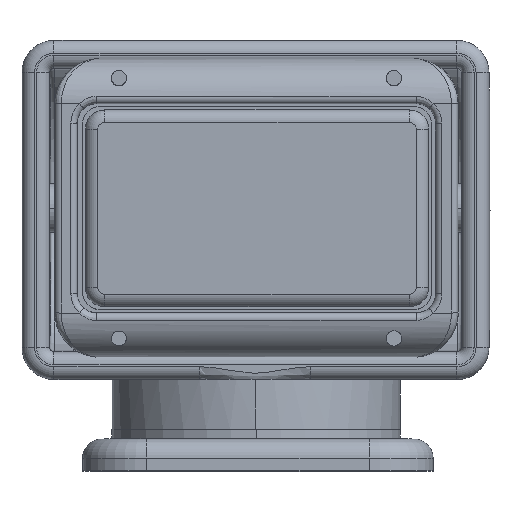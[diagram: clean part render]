
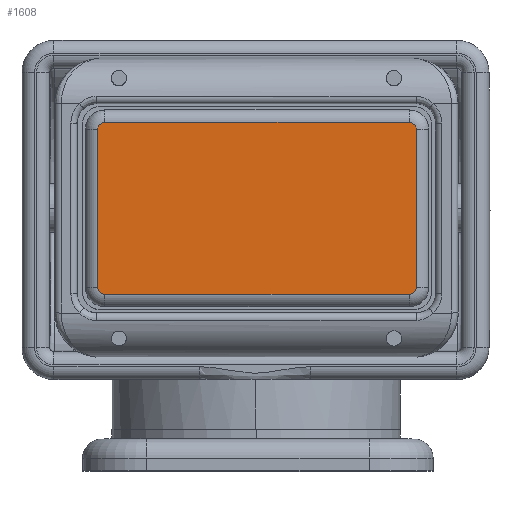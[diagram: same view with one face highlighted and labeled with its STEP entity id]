
A CAD part, top view. The second image highlights one B-rep face of the part: STEP entity #1608.
In plain terms, the highlighted planar face has unit normal (-0.007, -0.015, 1) as drawn and (0, 1, 0) by its records, which use the part's own axes.
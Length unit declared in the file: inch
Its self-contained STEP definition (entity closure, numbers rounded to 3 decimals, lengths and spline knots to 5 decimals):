
#1595 = VERTEX_POINT ( 'NONE', #3626 ) ;
#1598 = VERTEX_POINT ( 'NONE', #3620 ) ;
#1599 = EDGE_CURVE ( 'NONE', #1602, #1598, #3619, .T. ) ;
#1600 = ORIENTED_EDGE ( 'NONE', *, *, #1599, .T. ) ;
#1601 = ORIENTED_EDGE ( 'NONE', *, *, #1603, .T. ) ;
#1602 = VERTEX_POINT ( 'NONE', #3615 ) ;
#1603 = EDGE_CURVE ( 'NONE', #1604, #1602, #3677, .T. ) ;
#1604 = VERTEX_POINT ( 'NONE', #3672 ) ;
#1605 = EDGE_LOOP ( 'NONE', ( #1607, #1601, #1600, #8709, #1670, #1666, #1663, #1660 ) ) ;
#1606 = VERTEX_POINT ( 'NONE', #3671 ) ;
#1607 = ORIENTED_EDGE ( 'NONE', *, *, #1609, .T. ) ;
#1608 = ADVANCED_FACE ( 'NONE', ( #3670 ), #3669, .T. ) ;
#1609 = EDGE_CURVE ( 'NONE', #1606, #1604, #3668, .T. ) ;
#1659 = EDGE_CURVE ( 'NONE', #1661, #1606, #3772, .T. ) ;
#1660 = ORIENTED_EDGE ( 'NONE', *, *, #1659, .T. ) ;
#1661 = VERTEX_POINT ( 'NONE', #3763 ) ;
#1662 = EDGE_CURVE ( 'NONE', #1665, #1661, #3762, .T. ) ;
#1663 = ORIENTED_EDGE ( 'NONE', *, *, #1662, .T. ) ;
#1664 = EDGE_CURVE ( 'NONE', #1667, #1665, #3758, .T. ) ;
#1665 = VERTEX_POINT ( 'NONE', #3753 ) ;
#1666 = ORIENTED_EDGE ( 'NONE', *, *, #1664, .T. ) ;
#1667 = VERTEX_POINT ( 'NONE', #3752 ) ;
#1668 = EDGE_CURVE ( 'NONE', #1595, #1667, #3751, .T. ) ;
#1669 = EDGE_CURVE ( 'NONE', #1598, #1595, #3747, .T. ) ;
#1670 = ORIENTED_EDGE ( 'NONE', *, *, #1668, .T. ) ;
#3615 = CARTESIAN_POINT ( 'NONE',  ( 5.64781, 1.08, -1.09458 ) ) ;
#3616 = DIRECTION ( 'NONE',  ( 0., 0., -1. ) ) ;
#3617 = VECTOR ( 'NONE', #3616, 39.37008 ) ;
#3618 = CARTESIAN_POINT ( 'NONE',  ( 5.64781, 1.08, -3.56926 ) ) ;
#3619 = LINE ( 'NONE', #3618, #3617 ) ;
#3620 = CARTESIAN_POINT ( 'NONE',  ( 5.64781, 1.08, -3.56926 ) ) ;
#3626 = CARTESIAN_POINT ( 'NONE',  ( 5.54146, 1.08, -3.67561 ) ) ;
#3661 = DIRECTION ( 'NONE',  ( 1., 0., 0. ) ) ;
#3662 = VECTOR ( 'NONE', #3661, 39.37008 ) ;
#3663 = CARTESIAN_POINT ( 'NONE',  ( 5.54146, 1.08, -0.98823 ) ) ;
#3664 = DIRECTION ( 'NONE',  ( 0., 0., 1. ) ) ;
#3665 = DIRECTION ( 'NONE',  ( 0., 1., 0. ) ) ;
#3666 = CARTESIAN_POINT ( 'NONE',  ( 0.35, 1.08, -0.7 ) ) ;
#3667 = AXIS2_PLACEMENT_3D ( 'NONE', #3666, #3665, #3664 ) ;
#3668 = LINE ( 'NONE', #3663, #3662 ) ;
#3669 = PLANE ( 'NONE',  #3667 ) ;
#3670 = FACE_OUTER_BOUND ( 'NONE', #1605, .T. ) ;
#3671 = CARTESIAN_POINT ( 'NONE',  ( 0.77464, 1.08, -0.98823 ) ) ;
#3672 = CARTESIAN_POINT ( 'NONE',  ( 5.54146, 1.08, -0.98823 ) ) ;
#3673 = DIRECTION ( 'NONE',  ( 0., 0., 1. ) ) ;
#3674 = DIRECTION ( 'NONE',  ( 0., 1., 0. ) ) ;
#3675 = CARTESIAN_POINT ( 'NONE',  ( 5.54146, 1.08, -1.09458 ) ) ;
#3676 = AXIS2_PLACEMENT_3D ( 'NONE', #3675, #3674, #3673 ) ;
#3677 = CIRCLE ( 'NONE', #3676, 0.10635 ) ;
#3743 = DIRECTION ( 'NONE',  ( 0., 0., 1. ) ) ;
#3744 = DIRECTION ( 'NONE',  ( 0., 1., 0. ) ) ;
#3745 = CARTESIAN_POINT ( 'NONE',  ( 5.54146, 1.08, -3.56926 ) ) ;
#3746 = AXIS2_PLACEMENT_3D ( 'NONE', #3745, #3744, #3743 ) ;
#3747 = CIRCLE ( 'NONE', #3746, 0.10635 ) ;
#3748 = DIRECTION ( 'NONE',  ( -1., 0., 0. ) ) ;
#3749 = VECTOR ( 'NONE', #3748, 39.37008 ) ;
#3750 = CARTESIAN_POINT ( 'NONE',  ( 0.77464, 1.08, -3.67561 ) ) ;
#3751 = LINE ( 'NONE', #3750, #3749 ) ;
#3752 = CARTESIAN_POINT ( 'NONE',  ( 0.77464, 1.08, -3.67561 ) ) ;
#3753 = CARTESIAN_POINT ( 'NONE',  ( 0.66829, 1.08, -3.56926 ) ) ;
#3754 = DIRECTION ( 'NONE',  ( 0., 0., 1. ) ) ;
#3755 = DIRECTION ( 'NONE',  ( 0., 1., 0. ) ) ;
#3756 = CARTESIAN_POINT ( 'NONE',  ( 0.77464, 1.08, -3.56926 ) ) ;
#3757 = AXIS2_PLACEMENT_3D ( 'NONE', #3756, #3755, #3754 ) ;
#3758 = CIRCLE ( 'NONE', #3757, 0.10635 ) ;
#3759 = DIRECTION ( 'NONE',  ( 0., 0., 1. ) ) ;
#3760 = VECTOR ( 'NONE', #3759, 39.37008 ) ;
#3761 = CARTESIAN_POINT ( 'NONE',  ( 0.66829, 1.08, -1.09458 ) ) ;
#3762 = LINE ( 'NONE', #3761, #3760 ) ;
#3763 = CARTESIAN_POINT ( 'NONE',  ( 0.66829, 1.08, -1.09458 ) ) ;
#3764 = DIRECTION ( 'NONE',  ( 0., 0., 1. ) ) ;
#3765 = DIRECTION ( 'NONE',  ( 0., 1., 0. ) ) ;
#3766 = CARTESIAN_POINT ( 'NONE',  ( 0.77464, 1.08, -1.09458 ) ) ;
#3767 = AXIS2_PLACEMENT_3D ( 'NONE', #3766, #3765, #3764 ) ;
#3772 = CIRCLE ( 'NONE', #3767, 0.10635 ) ;
#8709 = ORIENTED_EDGE ( 'NONE', *, *, #1669, .T. ) ;
